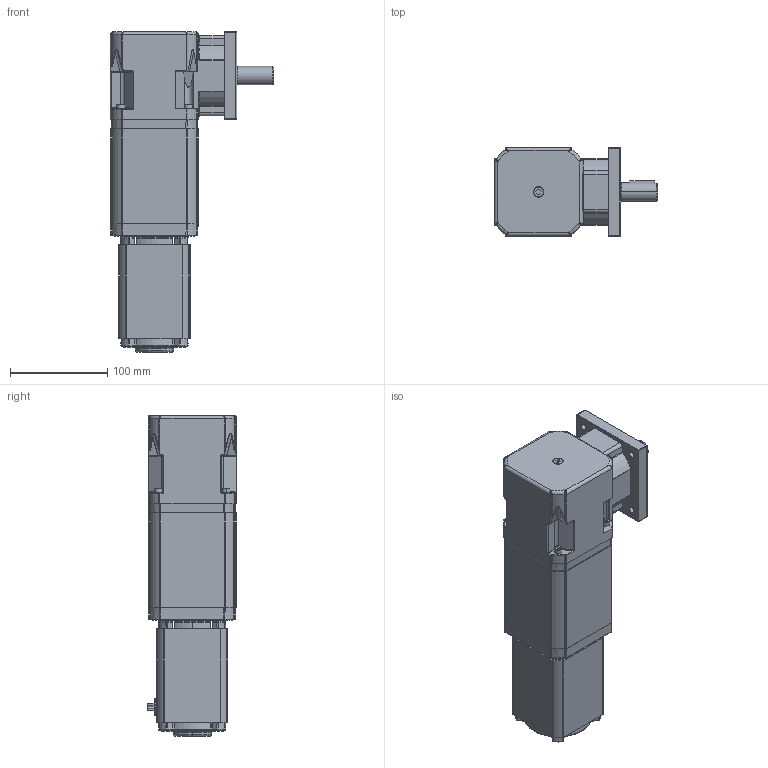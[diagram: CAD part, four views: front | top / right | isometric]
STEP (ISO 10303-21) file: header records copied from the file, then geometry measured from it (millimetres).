
FILE_DESCRIPTION (( 'STEP AP214' ), '1' );
FILE_NAME ('BL6520-RP7300_3S.STEP', '2013-08-28T18:06:44', ( '' ), ( '' ), 'SwSTEP 2.0', 'SolidWorks 2013', '' );
FILE_SCHEMA (( 'AUTOMOTIVE_DESIGN' ));
Length unit declared in the file: inch
Products named in the file (1): BL6520-RP7300_3S
Bounding box: 167.94 x 91.21 x 329.36 mm (x, y, z)
Surface area: 190783.2 mm2 (no closed solid volume)
Topology: 0 solids, 74 shells, 1263 faces, 4331 edges, 3013 vertices
Faces by surface type: cylinder 466, plane 356, cone 182, torus 137, bspline 87, sphere 35
Entity records: 69240 total; most frequent: CARTESIAN_POINT 16622, DIRECTION 7781, ORIENTED_EDGE 6789, EDGE_CURVE 4276, VERTEX_POINT 3013, AXIS2_PLACEMENT_3D 2952, LINE 1877, VECTOR 1877
